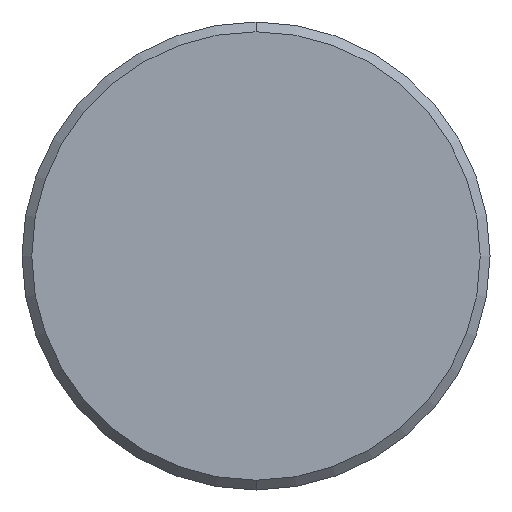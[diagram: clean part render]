
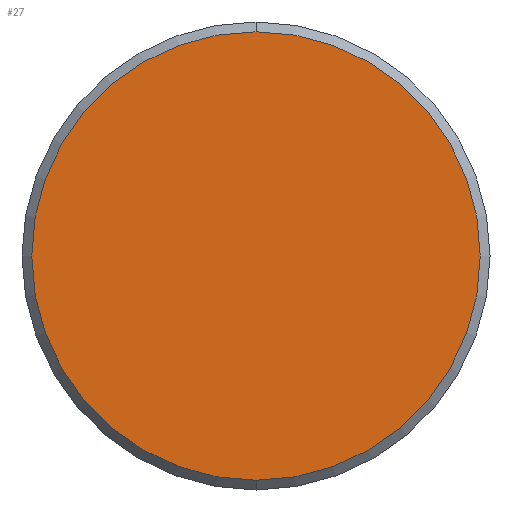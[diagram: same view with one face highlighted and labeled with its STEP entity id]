
A CAD part, front view. The second image highlights one B-rep face of the part: STEP entity #27.
In plain terms, the highlighted planar face has unit normal (0, -1, 0).
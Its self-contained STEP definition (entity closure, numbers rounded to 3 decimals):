
#17 = EDGE_LOOP ( 'NONE', ( #72, #238 ) ) ;
#27 = ADVANCED_FACE ( 'NONE', ( #28 ), #228, .F. ) ;
#28 = FACE_OUTER_BOUND ( 'NONE', #17, .T. ) ;
#39 = CIRCLE ( 'NONE', #183, 2.875 ) ;
#41 = DIRECTION ( 'NONE',  ( 0., 0., 1. ) ) ;
#63 = CARTESIAN_POINT ( 'NONE',  ( 0., 0., 0. ) ) ;
#72 = ORIENTED_EDGE ( 'NONE', *, *, #201, .T. ) ;
#114 = CARTESIAN_POINT ( 'NONE',  ( 0., 0., 0. ) ) ;
#115 = DIRECTION ( 'NONE',  ( 0., -1., 0. ) ) ;
#126 = AXIS2_PLACEMENT_3D ( 'NONE', #63, #211, #232 ) ;
#131 = DIRECTION ( 'NONE',  ( 0., 0., 1. ) ) ;
#133 = AXIS2_PLACEMENT_3D ( 'NONE', #144, #142, #41 ) ;
#142 = DIRECTION ( 'NONE',  ( 0., 1., 0. ) ) ;
#144 = CARTESIAN_POINT ( 'NONE',  ( 0., 0., 0. ) ) ;
#181 = VERTEX_POINT ( 'NONE', #230 ) ;
#183 = AXIS2_PLACEMENT_3D ( 'NONE', #114, #115, #131 ) ;
#194 = EDGE_CURVE ( 'NONE', #181, #218, #39, .T. ) ;
#201 = EDGE_CURVE ( 'NONE', #218, #181, #251, .T. ) ;
#211 = DIRECTION ( 'NONE',  ( 0., -1., 0. ) ) ;
#218 = VERTEX_POINT ( 'NONE', #239 ) ;
#228 = PLANE ( 'NONE',  #133 ) ;
#230 = CARTESIAN_POINT ( 'NONE',  ( 0., 0., -2.875 ) ) ;
#232 = DIRECTION ( 'NONE',  ( 0., 0., 1. ) ) ;
#238 = ORIENTED_EDGE ( 'NONE', *, *, #194, .T. ) ;
#239 = CARTESIAN_POINT ( 'NONE',  ( 0., 0., 2.875 ) ) ;
#251 = CIRCLE ( 'NONE', #126, 2.875 ) ;
